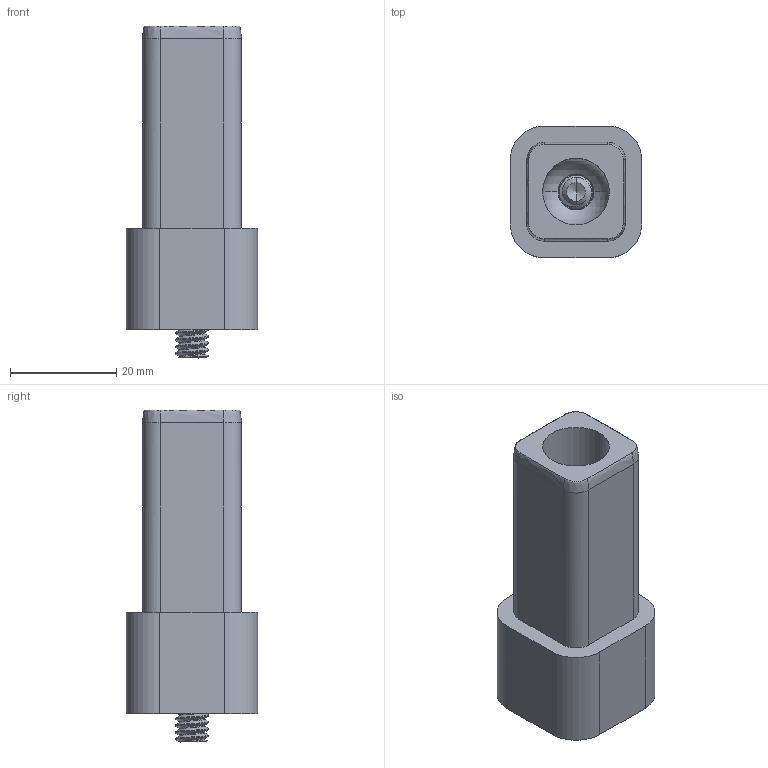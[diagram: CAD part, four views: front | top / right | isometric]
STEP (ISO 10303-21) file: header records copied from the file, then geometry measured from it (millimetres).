
FILE_DESCRIPTION (( 'STEP AP203' ), '1' );
FILE_NAME ('FDPCK-MCS.75-END-STUD-S.step', '2019-09-11T18:36:11', ( 'ydmin' ), ( '' ), 'SwSTEP 2.0', 'SolidWorks 2017', '' );
FILE_SCHEMA (( 'CONFIG_CONTROL_DESIGN' ));
Length unit declared in the file: inch
Products named in the file (1): FDPCK-MCS.75-END-STUD-S
Bounding box: 24.77 x 24.77 x 62.48 mm (x, y, z)
Volume: 19235.6 mm3; surface area: 8584.7 mm2
Topology: 3 solids, 3 shells, 102 faces, 256 edges, 158 vertices
Faces by surface type: cylinder 40, plane 26, bspline 19, cone 15, sphere 2
Entity records: 9052 total; most frequent: CARTESIAN_POINT 6876, ORIENTED_EDGE 504, DIRECTION 364, EDGE_CURVE 252, VERTEX_POINT 158, AXIS2_PLACEMENT_3D 128, VECTOR 108, LINE 108
